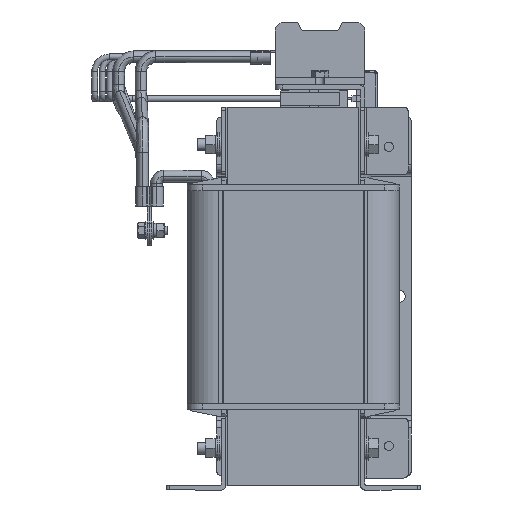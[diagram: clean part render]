
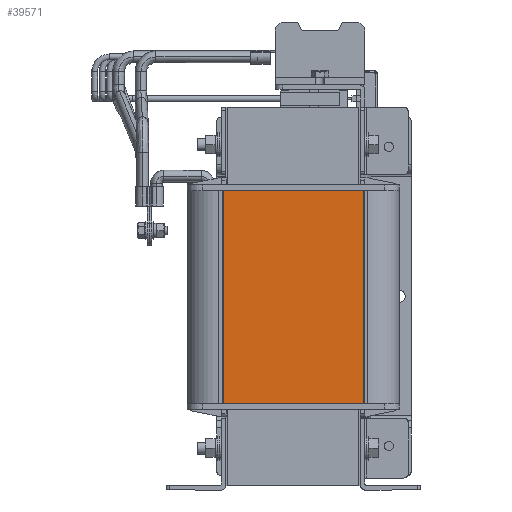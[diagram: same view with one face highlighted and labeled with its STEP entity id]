
A CAD part, left-side view. The second image highlights one B-rep face of the part: STEP entity #39571.
In plain terms, the highlighted planar face has unit normal (-1, 0, 0).
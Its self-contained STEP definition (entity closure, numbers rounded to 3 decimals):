
#11216 = EDGE_CURVE ( 'NONE', #121557, #103991, #103263, .T. ) ;
#24804 = CARTESIAN_POINT ( 'NONE',  ( -147.34, 131.843, 57.75 ) ) ;
#25650 = VERTEX_POINT ( 'NONE', #123264 ) ;
#27776 = DIRECTION ( 'NONE',  ( 0., -1., 0. ) ) ;
#27934 = AXIS2_PLACEMENT_3D ( 'NONE', #84291, #74755, #100872 ) ;
#30853 = EDGE_CURVE ( 'NONE', #25650, #103991, #53376, .T. ) ;
#31184 = VERTEX_POINT ( 'NONE', #36249 ) ;
#36249 = CARTESIAN_POINT ( 'NONE',  ( -147.34, 131.843, 57.75 ) ) ;
#39571 = ADVANCED_FACE ( 'NONE', ( #63949 ), #123114, .T. ) ;
#44516 = CARTESIAN_POINT ( 'NONE',  ( -147.34, 38.158, 57.75 ) ) ;
#46050 = CARTESIAN_POINT ( 'NONE',  ( -147.34, 83.584, 200.25 ) ) ;
#46204 = CARTESIAN_POINT ( 'NONE',  ( -147.34, 83.584, 57.75 ) ) ;
#51762 = EDGE_CURVE ( 'NONE', #121557, #31184, #92790, .T. ) ;
#53376 = LINE ( 'NONE', #44516, #120639 ) ;
#54247 = ORIENTED_EDGE ( 'NONE', *, *, #11216, .F. ) ;
#54380 = VECTOR ( 'NONE', #73685, 1000. ) ;
#54507 = CARTESIAN_POINT ( 'NONE',  ( -147.34, 38.158, 200.25 ) ) ;
#54933 = DIRECTION ( 'NONE',  ( 0., -1., 0. ) ) ;
#55718 = EDGE_LOOP ( 'NONE', ( #60700, #91516, #54247, #90517 ) ) ;
#57386 = VECTOR ( 'NONE', #54933, 1000. ) ;
#60700 = ORIENTED_EDGE ( 'NONE', *, *, #119493, .T. ) ;
#63949 = FACE_OUTER_BOUND ( 'NONE', #55718, .T. ) ;
#73685 = DIRECTION ( 'NONE',  ( 0., 0., -1. ) ) ;
#74755 = DIRECTION ( 'NONE',  ( -1., 0., 0. ) ) ;
#84291 = CARTESIAN_POINT ( 'NONE',  ( -147.34, 35.158, 57.75 ) ) ;
#90517 = ORIENTED_EDGE ( 'NONE', *, *, #51762, .T. ) ;
#90908 = DIRECTION ( 'NONE',  ( 0., 0., 1. ) ) ;
#91516 = ORIENTED_EDGE ( 'NONE', *, *, #30853, .T. ) ;
#92790 = LINE ( 'NONE', #24804, #54380 ) ;
#96701 = CARTESIAN_POINT ( 'NONE',  ( -147.34, 131.843, 200.25 ) ) ;
#100872 = DIRECTION ( 'NONE',  ( 0., 0., 1. ) ) ;
#103263 = LINE ( 'NONE', #46050, #57386 ) ;
#103991 = VERTEX_POINT ( 'NONE', #54507 ) ;
#115498 = LINE ( 'NONE', #46204, #120012 ) ;
#119493 = EDGE_CURVE ( 'NONE', #31184, #25650, #115498, .T. ) ;
#120012 = VECTOR ( 'NONE', #27776, 1000. ) ;
#120639 = VECTOR ( 'NONE', #90908, 1000. ) ;
#121557 = VERTEX_POINT ( 'NONE', #96701 ) ;
#123114 = PLANE ( 'NONE',  #27934 ) ;
#123264 = CARTESIAN_POINT ( 'NONE',  ( -147.34, 38.158, 57.75 ) ) ;
